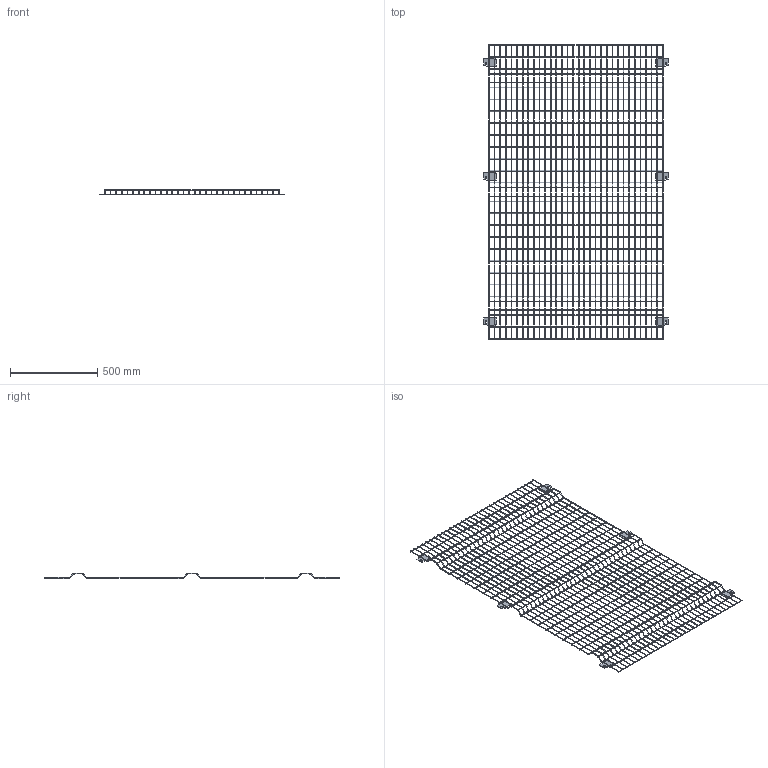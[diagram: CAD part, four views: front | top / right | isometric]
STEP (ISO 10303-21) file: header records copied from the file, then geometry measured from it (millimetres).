
FILE_DESCRIPTION (( 'STEP AP203' ), '1' );
FILE_NAME ('1000 x 1688.STEP', '2023-09-15T16:45:24', ( '' ), ( '' ), 'SwSTEP 2.0', 'SolidWorks 2023', '' );
FILE_SCHEMA (( 'CONFIG_CONTROL_DESIGN' ));
Length unit declared in the file: millimetre
Products named in the file (1): 1000 x 1688
Bounding box: 1056 x 1688 x 32 mm (x, y, z)
Volume: 1141589.7 mm3; surface area: 1122833.3 mm2
Topology: 68 solids, 68 shells, 1880 faces, 3696 edges, 1952 vertices
Faces by surface type: cylinder 934, torus 768, plane 178
Entity records: 47671 total; most frequent: DIRECTION 10094, CARTESIAN_POINT 7529, ORIENTED_EDGE 7392, AXIS2_PLACEMENT_3D 4517, EDGE_CURVE 3696, CIRCLE 2636, VERTEX_POINT 1952, ADVANCED_FACE 1880
